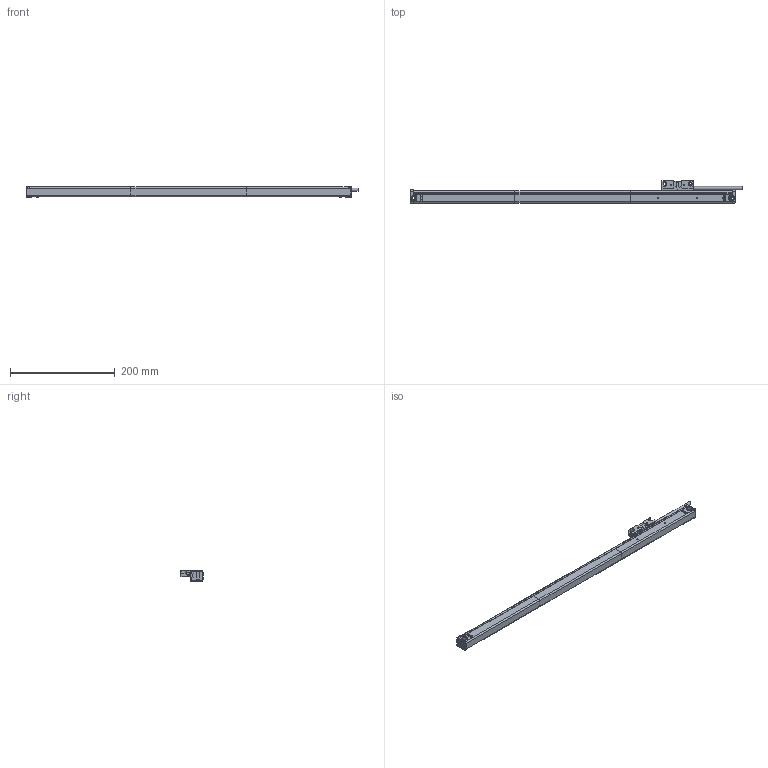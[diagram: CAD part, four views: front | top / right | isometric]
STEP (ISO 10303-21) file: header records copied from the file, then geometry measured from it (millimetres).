
FILE_DESCRIPTION( ( 'STEP AP203' ), '1' );
FILE_NAME( 'N:/Engineering/CAD_Solid/Magnescale/GBER/GB-050ER_SR138-050R.stp', '2013-03-14T10:07:16', ( ' ' ), ( ' ' ), 'XStep 1.0', ' ', ' ' );
FILE_SCHEMA( ( 'CONFIG_CONTROL_DESIGN) ( )' ) );
Length unit declared in the file: metre
Products named in the file (1): 1
Bounding box: 632.5 x 42 x 21 mm (x, y, z)
Surface area: 66244.2 mm2 (no closed solid volume)
Topology: 0 solids, 293 shells, 293 faces, 1611 edges, 1575 vertices
Faces by surface type: plane 187, cylinder 86, torus 12, cone 8
Full cylindrical faces by diameter (mm): 2.013 x2, 2.113 x2, 3.242 x2, 4 x8, 4.8 x2, 5 x2, 6 x1, 9.8 x2, 10 x2
Entity records: 15537 total; most frequent: CARTESIAN_POINT 3422, DIRECTION 2619, ORIENTED_EDGE 1564, EDGE_CURVE 1564, VERTEX_POINT 1564, LINE 1097, VECTOR 1097, AXIS2_PLACEMENT_3D 761
